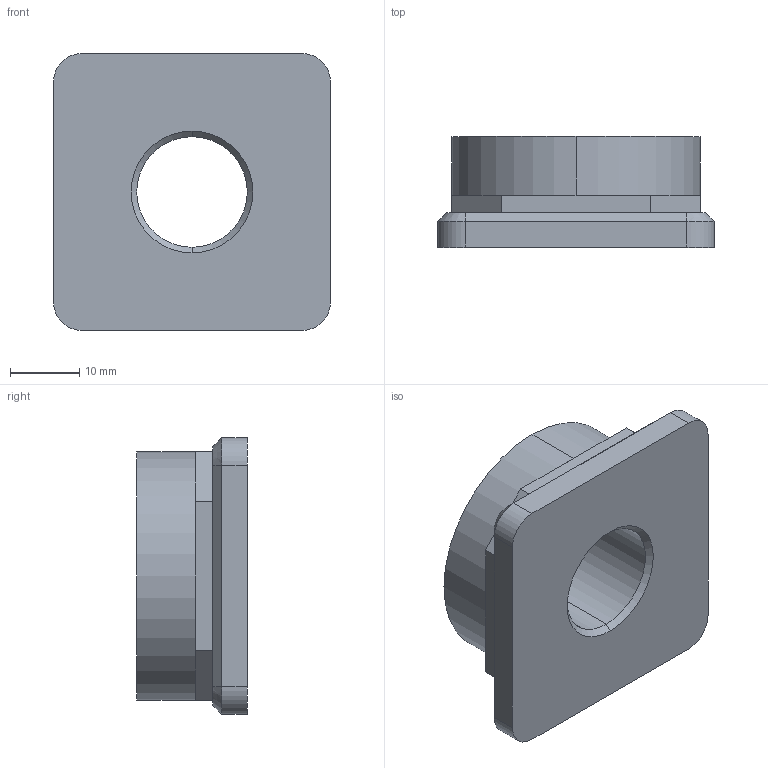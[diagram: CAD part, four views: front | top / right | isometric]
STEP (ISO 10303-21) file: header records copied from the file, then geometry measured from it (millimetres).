
FILE_DESCRIPTION (( 'STEP AP203' ), '1' );
FILE_NAME ('34670.W0040.step', '2017-06-26T08:13:04', ( 'User' ), ( '' ), 'SwSTEP 2.0', 'SolidWorks 2009', '' );
FILE_SCHEMA (( 'CONFIG_CONTROL_DESIGN' ));
Length unit declared in the file: millimetre
Products named in the file (1): 34670.W0040
Bounding box: 40 x 16 x 40 mm (x, y, z)
Volume: 16190.6 mm3; surface area: 5457.1 mm2
Topology: 1 solids, 1 shells, 39 faces, 90 edges, 54 vertices
Faces by surface type: plane 23, cone 8, cylinder 8
Entity records: 1167 total; most frequent: DIRECTION 196, CARTESIAN_POINT 184, ORIENTED_EDGE 180, EDGE_CURVE 90, AXIS2_PLACEMENT_3D 66, LINE 64, VECTOR 64, VERTEX_POINT 54
